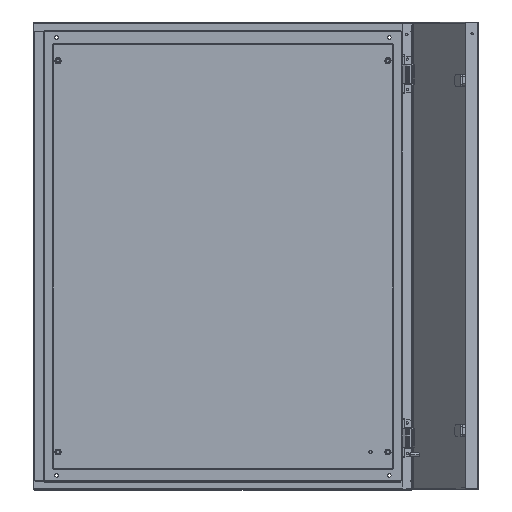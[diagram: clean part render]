
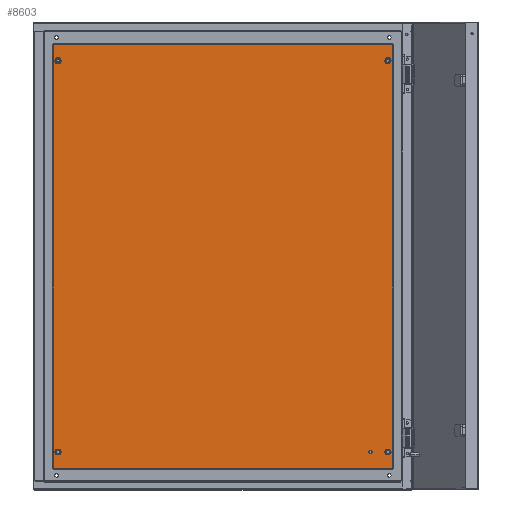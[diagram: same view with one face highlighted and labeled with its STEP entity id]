
A CAD part, top view. The second image highlights one B-rep face of the part: STEP entity #8603.
In plain terms, the highlighted planar face has unit normal (0, 0, 1).
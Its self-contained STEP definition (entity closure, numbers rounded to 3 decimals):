
#248 = DIRECTION ( 'NONE',  ( -1., 0., 0. ) ) ;
#286 = DIRECTION ( 'NONE',  ( 1., 0., 0. ) ) ;
#336 = DIRECTION ( 'NONE',  ( 0., 0., 1. ) ) ;
#558 = ORIENTED_EDGE ( 'NONE', *, *, #11175, .T. ) ;
#660 = DIRECTION ( 'NONE',  ( 0., 0., 1. ) ) ;
#699 = FACE_BOUND ( 'NONE', #3045, .T. ) ;
#838 = LINE ( 'NONE', #7974, #10770 ) ;
#846 = VERTEX_POINT ( 'NONE', #4787 ) ;
#1286 = EDGE_CURVE ( 'NONE', #6873, #10951, #13204, .T. ) ;
#1646 = PLANE ( 'NONE',  #9316 ) ;
#2016 = AXIS2_PLACEMENT_3D ( 'NONE', #3298, #8550, #7631 ) ;
#2052 = CARTESIAN_POINT ( 'NONE',  ( 542., 30., 0. ) ) ;
#2168 = DIRECTION ( 'NONE',  ( 1., 0., 0. ) ) ;
#2231 = DIRECTION ( 'NONE',  ( 0., 0., 1. ) ) ;
#2313 = AXIS2_PLACEMENT_3D ( 'NONE', #3660, #13098, #13140 ) ;
#2574 = DIRECTION ( 'NONE',  ( 0., 0., 1. ) ) ;
#2580 = CARTESIAN_POINT ( 'NONE',  ( 579., 30., 0. ) ) ;
#2827 = CIRCLE ( 'NONE', #2016, 4. ) ;
#2982 = VECTOR ( 'NONE', #4166, 1000. ) ;
#3045 = EDGE_LOOP ( 'NONE', ( #7354, #10044 ) ) ;
#3181 = EDGE_CURVE ( 'NONE', #8465, #7947, #8720, .T. ) ;
#3294 = EDGE_LOOP ( 'NONE', ( #5706, #12959 ) ) ;
#3298 = CARTESIAN_POINT ( 'NONE',  ( 10., 30., 0. ) ) ;
#3299 = CARTESIAN_POINT ( 'NONE',  ( 10., 30., 0. ) ) ;
#3343 = VERTEX_POINT ( 'NONE', #6811 ) ;
#3539 = FACE_BOUND ( 'NONE', #3294, .T. ) ;
#3660 = CARTESIAN_POINT ( 'NONE',  ( 575., 30., 0. ) ) ;
#4166 = DIRECTION ( 'NONE',  ( 0., -1., 0. ) ) ;
#4335 = ORIENTED_EDGE ( 'NONE', *, *, #11773, .F. ) ;
#4432 = DIRECTION ( 'NONE',  ( -1., 0., 0. ) ) ;
#4619 = EDGE_CURVE ( 'NONE', #8911, #5779, #2827, .T. ) ;
#4671 = AXIS2_PLACEMENT_3D ( 'NONE', #3299, #10774, #4432 ) ;
#4787 = CARTESIAN_POINT ( 'NONE',  ( 583.063, 1.937, 0. ) ) ;
#4821 = FACE_BOUND ( 'NONE', #12412, .T. ) ;
#5421 = EDGE_LOOP ( 'NONE', ( #9672, #12876 ) ) ;
#5444 = CARTESIAN_POINT ( 'NONE',  ( 6., 30., 0. ) ) ;
#5577 = CARTESIAN_POINT ( 'NONE',  ( 575., 30., 0. ) ) ;
#5584 = CARTESIAN_POINT ( 'NONE',  ( 548., 30., 0. ) ) ;
#5593 = CIRCLE ( 'NONE', #10613, 4. ) ;
#5706 = ORIENTED_EDGE ( 'NONE', *, *, #6004, .F. ) ;
#5711 = CARTESIAN_POINT ( 'NONE',  ( 1.937, 728.063, 0. ) ) ;
#5772 = CARTESIAN_POINT ( 'NONE',  ( 571., 700., 0. ) ) ;
#5779 = VERTEX_POINT ( 'NONE', #5444 ) ;
#5803 = DIRECTION ( 'NONE',  ( -1., 0., 0. ) ) ;
#5810 = AXIS2_PLACEMENT_3D ( 'NONE', #5577, #2574, #6613 ) ;
#5875 = DIRECTION ( 'NONE',  ( 0., 1., 0. ) ) ;
#5979 = EDGE_CURVE ( 'NONE', #8299, #9344, #8229, .T. ) ;
#6004 = EDGE_CURVE ( 'NONE', #9344, #8299, #8061, .T. ) ;
#6199 = DIRECTION ( 'NONE',  ( 0., 0., 1. ) ) ;
#6269 = LINE ( 'NONE', #7221, #2982 ) ;
#6402 = ORIENTED_EDGE ( 'NONE', *, *, #11098, .T. ) ;
#6613 = DIRECTION ( 'NONE',  ( 1., 0., 0. ) ) ;
#6729 = CARTESIAN_POINT ( 'NONE',  ( 10., 700., 0. ) ) ;
#6811 = CARTESIAN_POINT ( 'NONE',  ( 571., 30., 0. ) ) ;
#6873 = VERTEX_POINT ( 'NONE', #8973 ) ;
#7000 = FACE_OUTER_BOUND ( 'NONE', #7078, .T. ) ;
#7021 = EDGE_CURVE ( 'NONE', #10951, #6873, #12156, .T. ) ;
#7055 = DIRECTION ( 'NONE',  ( -1., 0., 0. ) ) ;
#7078 = EDGE_LOOP ( 'NONE', ( #558, #11441, #10226, #6402 ) ) ;
#7098 = CARTESIAN_POINT ( 'NONE',  ( 575., 700., 0. ) ) ;
#7156 = FACE_BOUND ( 'NONE', #10564, .T. ) ;
#7180 = DIRECTION ( 'NONE',  ( -1., 0., 0. ) ) ;
#7221 = CARTESIAN_POINT ( 'NONE',  ( 1.937, 728.093, 0. ) ) ;
#7354 = ORIENTED_EDGE ( 'NONE', *, *, #1286, .F. ) ;
#7363 = ORIENTED_EDGE ( 'NONE', *, *, #12395, .F. ) ;
#7399 = CARTESIAN_POINT ( 'NONE',  ( 575., 700., 0. ) ) ;
#7519 = AXIS2_PLACEMENT_3D ( 'NONE', #9776, #8713, #248 ) ;
#7611 = CARTESIAN_POINT ( 'NONE',  ( 14., 30., 0. ) ) ;
#7631 = DIRECTION ( 'NONE',  ( -1., 0., 0. ) ) ;
#7947 = VERTEX_POINT ( 'NONE', #9298 ) ;
#7974 = CARTESIAN_POINT ( 'NONE',  ( 583.063, 1.907, 0. ) ) ;
#7988 = CARTESIAN_POINT ( 'NONE',  ( 10., 700., 0. ) ) ;
#8061 = CIRCLE ( 'NONE', #7519, 3. ) ;
#8229 = CIRCLE ( 'NONE', #10804, 3. ) ;
#8299 = VERTEX_POINT ( 'NONE', #5584 ) ;
#8465 = VERTEX_POINT ( 'NONE', #9528 ) ;
#8550 = DIRECTION ( 'NONE',  ( 0., 0., 1. ) ) ;
#8569 = CIRCLE ( 'NONE', #4671, 4. ) ;
#8603 = ADVANCED_FACE ( 'NONE', ( #3539, #7156, #12751, #699, #4821, #7000 ), #1646, .F. ) ;
#8713 = DIRECTION ( 'NONE',  ( 0., 0., 1. ) ) ;
#8720 = CIRCLE ( 'NONE', #9163, 4. ) ;
#8725 = DIRECTION ( 'NONE',  ( 0., 0., 1. ) ) ;
#8800 = AXIS2_PLACEMENT_3D ( 'NONE', #7098, #660, #7055 ) ;
#8911 = VERTEX_POINT ( 'NONE', #7611 ) ;
#8973 = CARTESIAN_POINT ( 'NONE',  ( 579., 700., 0. ) ) ;
#9163 = AXIS2_PLACEMENT_3D ( 'NONE', #7988, #8725, #12890 ) ;
#9235 = VECTOR ( 'NONE', #7180, 1000. ) ;
#9298 = CARTESIAN_POINT ( 'NONE',  ( 14., 700., 0. ) ) ;
#9316 = AXIS2_PLACEMENT_3D ( 'NONE', #13072, #11141, #5803 ) ;
#9344 = VERTEX_POINT ( 'NONE', #2052 ) ;
#9366 = CIRCLE ( 'NONE', #2313, 4. ) ;
#9528 = CARTESIAN_POINT ( 'NONE',  ( 6., 700., 0. ) ) ;
#9658 = VERTEX_POINT ( 'NONE', #13422 ) ;
#9672 = ORIENTED_EDGE ( 'NONE', *, *, #13002, .F. ) ;
#9776 = CARTESIAN_POINT ( 'NONE',  ( 545., 30., 0. ) ) ;
#10044 = ORIENTED_EDGE ( 'NONE', *, *, #7021, .F. ) ;
#10197 = EDGE_CURVE ( 'NONE', #846, #11843, #838, .T. ) ;
#10226 = ORIENTED_EDGE ( 'NONE', *, *, #10197, .T. ) ;
#10403 = CARTESIAN_POINT ( 'NONE',  ( 583.093, 728.063, 0. ) ) ;
#10419 = CARTESIAN_POINT ( 'NONE',  ( 545., 30., 0. ) ) ;
#10564 = EDGE_LOOP ( 'NONE', ( #11715, #7363 ) ) ;
#10608 = CARTESIAN_POINT ( 'NONE',  ( 1.907, 1.937, 0. ) ) ;
#10613 = AXIS2_PLACEMENT_3D ( 'NONE', #6729, #336, #286 ) ;
#10770 = VECTOR ( 'NONE', #5875, 1000. ) ;
#10774 = DIRECTION ( 'NONE',  ( 0., 0., 1. ) ) ;
#10804 = AXIS2_PLACEMENT_3D ( 'NONE', #10419, #6199, #11847 ) ;
#10951 = VERTEX_POINT ( 'NONE', #5772 ) ;
#11098 = EDGE_CURVE ( 'NONE', #11843, #12534, #12053, .T. ) ;
#11141 = DIRECTION ( 'NONE',  ( 0., 0., -1. ) ) ;
#11175 = EDGE_CURVE ( 'NONE', #12534, #9658, #6269, .T. ) ;
#11441 = ORIENTED_EDGE ( 'NONE', *, *, #13404, .T. ) ;
#11469 = VERTEX_POINT ( 'NONE', #2580 ) ;
#11715 = ORIENTED_EDGE ( 'NONE', *, *, #4619, .F. ) ;
#11773 = EDGE_CURVE ( 'NONE', #7947, #8465, #5593, .T. ) ;
#11843 = VERTEX_POINT ( 'NONE', #12990 ) ;
#11847 = DIRECTION ( 'NONE',  ( -1., 0., 0. ) ) ;
#12028 = CIRCLE ( 'NONE', #5810, 4. ) ;
#12036 = ORIENTED_EDGE ( 'NONE', *, *, #3181, .F. ) ;
#12053 = LINE ( 'NONE', #10403, #9235 ) ;
#12123 = AXIS2_PLACEMENT_3D ( 'NONE', #7399, #2231, #12716 ) ;
#12156 = CIRCLE ( 'NONE', #12123, 4. ) ;
#12163 = VECTOR ( 'NONE', #2168, 1000. ) ;
#12395 = EDGE_CURVE ( 'NONE', #5779, #8911, #8569, .T. ) ;
#12412 = EDGE_LOOP ( 'NONE', ( #4335, #12036 ) ) ;
#12531 = EDGE_CURVE ( 'NONE', #3343, #11469, #12028, .T. ) ;
#12534 = VERTEX_POINT ( 'NONE', #5711 ) ;
#12716 = DIRECTION ( 'NONE',  ( -1., 0., 0. ) ) ;
#12751 = FACE_BOUND ( 'NONE', #5421, .T. ) ;
#12815 = LINE ( 'NONE', #10608, #12163 ) ;
#12876 = ORIENTED_EDGE ( 'NONE', *, *, #12531, .F. ) ;
#12890 = DIRECTION ( 'NONE',  ( 1., 0., 0. ) ) ;
#12959 = ORIENTED_EDGE ( 'NONE', *, *, #5979, .F. ) ;
#12990 = CARTESIAN_POINT ( 'NONE',  ( 583.063, 728.063, 0. ) ) ;
#13002 = EDGE_CURVE ( 'NONE', #11469, #3343, #9366, .T. ) ;
#13072 = CARTESIAN_POINT ( 'NONE',  ( 0., 0., 0. ) ) ;
#13098 = DIRECTION ( 'NONE',  ( 0., 0., 1. ) ) ;
#13140 = DIRECTION ( 'NONE',  ( 1., 0., 0. ) ) ;
#13204 = CIRCLE ( 'NONE', #8800, 4. ) ;
#13404 = EDGE_CURVE ( 'NONE', #9658, #846, #12815, .T. ) ;
#13422 = CARTESIAN_POINT ( 'NONE',  ( 1.937, 1.937, 0. ) ) ;
